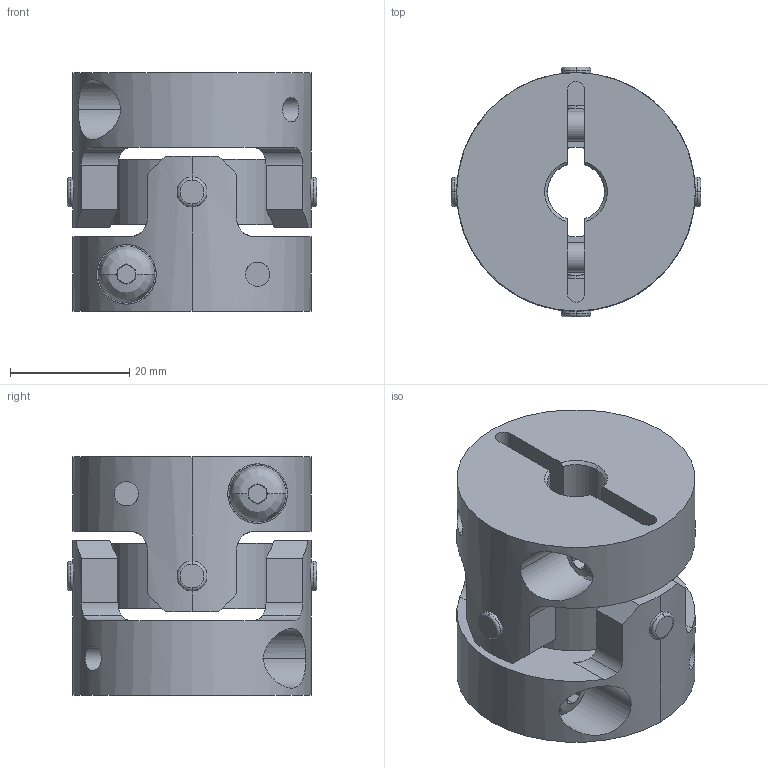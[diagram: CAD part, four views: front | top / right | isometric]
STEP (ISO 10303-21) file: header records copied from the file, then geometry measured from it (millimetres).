
FILE_DESCRIPTION((''),'2;1');
FILE_NAME('UA-40C-9.525×16.stp','2013-11-19T08:38:30',(''),(''),'AutoCAD STEP 2000i','AutoCAD 2000i',', , ');
FILE_SCHEMA(('CONFIG_CONTROL_DESIGN'));
Length unit declared in the file: millimetre
Products named in the file (6): UA-40C-8×8; 忣兜1; UA-4002-D08-1; BTN-M5; UA-4002-D08; UA40-SEN
Assembly tree (6 placements, depth 3):
  UA-40C-8×8
    忣兜1
    UA-4002-D08-1
      BTN-M5
    UA-4002-D08
      BTN-M5
    UA40-SEN
Bounding box: 41.81 x 41.81 x 40 mm (x, y, z)
Volume: 33425.8 mm3; surface area: 15521.6 mm2
Topology: 1 solids, 1 shells, 250 faces, 646 edges, 408 vertices
Faces by surface type: plane 122, cylinder 96, cone 16, bspline 8, torus 8
Entity records: 9627 total; most frequent: CARTESIAN_POINT 3371, ORIENTED_EDGE 1292, DIRECTION 1288, EDGE_CURVE 646, AXIS2_PLACEMENT_3D 497, VERTEX_POINT 408, VECTOR 294, LINE 294
